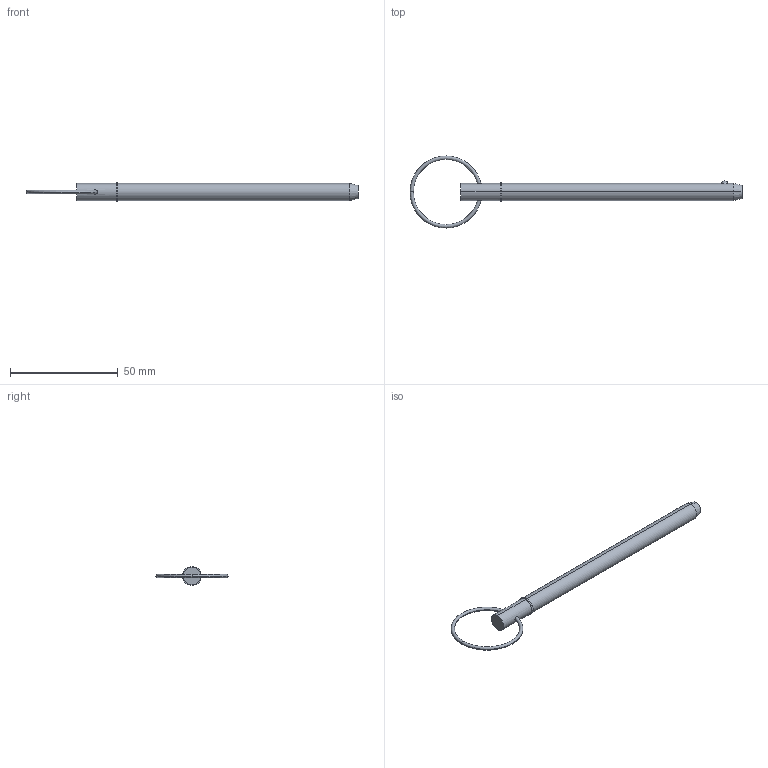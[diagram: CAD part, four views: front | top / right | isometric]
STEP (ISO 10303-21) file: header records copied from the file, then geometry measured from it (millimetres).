
FILE_DESCRIPTION (( 'STEP AP203' ), '1' );
FILE_NAME ('33014.W3140.step', '2024-11-04T08:25:25', ( '' ), ( '' ), 'SwSTEP 2.0', 'SolidWorks 2019', '' );
FILE_SCHEMA (( 'CONFIG_CONTROL_DESIGN' ));
Length unit declared in the file: millimetre
Products named in the file (3): 33014.W3140; Part2_33014.W3140; Part1_33014.W3140
Assembly tree (2 placements, depth 2):
  33014.W3140
    Part1_33014.W3140
    Part2_33014.W3140
Bounding box: 153.72 x 33.34 x 8.73 mm (x, y, z)
Volume: 6590.3 mm3; surface area: 3884.3 mm2
Topology: 2 solids, 2 shells, 22 faces, 43 edges, 26 vertices
Faces by surface type: torus 8, cylinder 6, plane 4, sphere 2, cone 2
Entity records: 989 total; most frequent: CARTESIAN_POINT 212, DIRECTION 120, ORIENTED_EDGE 86, AXIS2_PLACEMENT_3D 56, EDGE_CURVE 43, CIRCLE 29, EDGE_LOOP 27, PERSON_AND_ORGANIZATION 26
